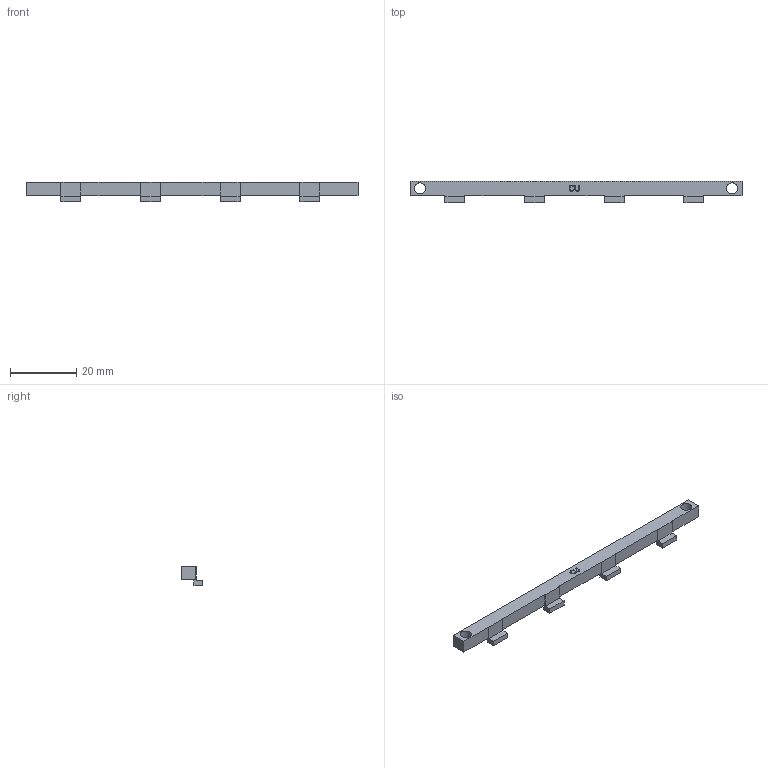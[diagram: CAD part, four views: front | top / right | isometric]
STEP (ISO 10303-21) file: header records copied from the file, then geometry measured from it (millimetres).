
FILE_DESCRIPTION(('Open CASCADE Model'),'2;1');
FILE_NAME('Open CASCADE Shape Model','2026-10-07T10:51:43',('Author'),( 'Open CASCADE'),'Open CASCADE STEP processor 7.8','Open CASCADE 7.8' ,'Unknown');
FILE_SCHEMA(('AUTOMOTIVE_DESIGN { 1 0 10303 214 1 1 1 1 }'));
Length unit declared in the file: millimetre
Products named in the file (1): Open CASCADE STEP translator 7.8 8
Bounding box: 100 x 6.6 x 5.8 mm (x, y, z)
Volume: 1812.6 mm3; surface area: 2008.3 mm2
Topology: 1 solids, 1 shells, 74 faces, 210 edges, 140 vertices
Faces by surface type: plane 48, extrusion 24, cylinder 2
Full cylindrical faces by diameter (mm): 3.4 x2
Entity records: 5541 total; most frequent: CARTESIAN_POINT 1616, DIRECTION 592, VECTOR 478, LINE 454, ORIENTED_EDGE 420, PCURVE 420, DEFINITIONAL_REPRESENTATION 420, EDGE_CURVE 210
